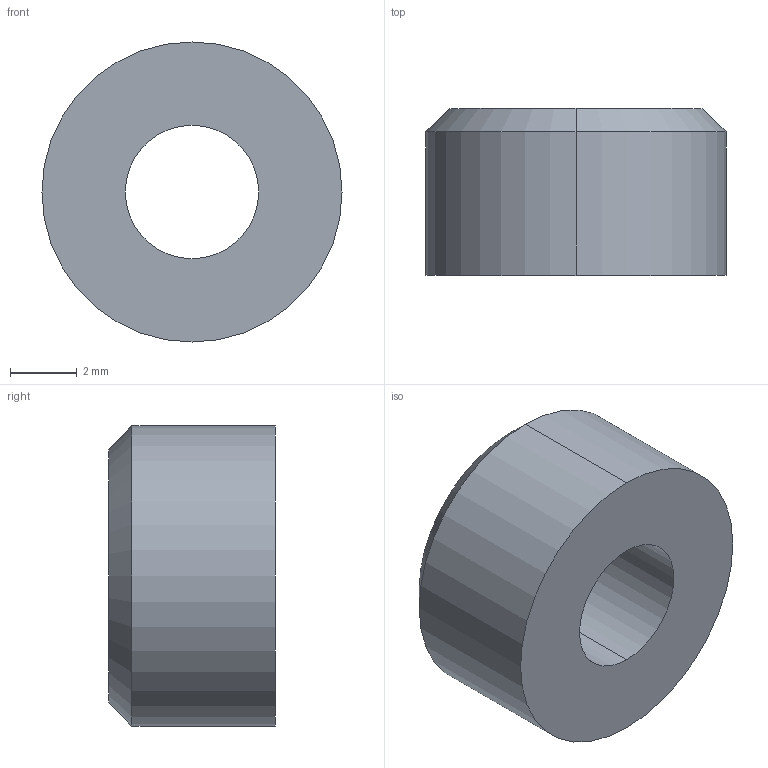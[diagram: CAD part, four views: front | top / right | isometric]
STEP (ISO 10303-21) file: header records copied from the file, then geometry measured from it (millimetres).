
FILE_DESCRIPTION (( 'STEP AP214' ), '1' );
FILE_NAME ('Goma.STEP', '2016-09-22T09:37:19', ( 'aaa' ), ( '' ), 'SwSTEP 2.0', 'SolidWorks 2013', '' );
FILE_SCHEMA (( 'AUTOMOTIVE_DESIGN' ));
Length unit declared in the file: millimetre
Products named in the file (1): Goma
Bounding box: 9 x 5 x 9 mm (x, y, z)
Volume: 248.7 mm3; surface area: 294.1 mm2
Topology: 1 solids, 1 shells, 8 faces, 16 edges, 10 vertices
Faces by surface type: cylinder 4, cone 2, plane 2
Entity records: 252 total; most frequent: DIRECTION 44, CARTESIAN_POINT 35, ORIENTED_EDGE 32, AXIS2_PLACEMENT_3D 19, EDGE_CURVE 16, EDGE_LOOP 10, CIRCLE 10, VERTEX_POINT 10
